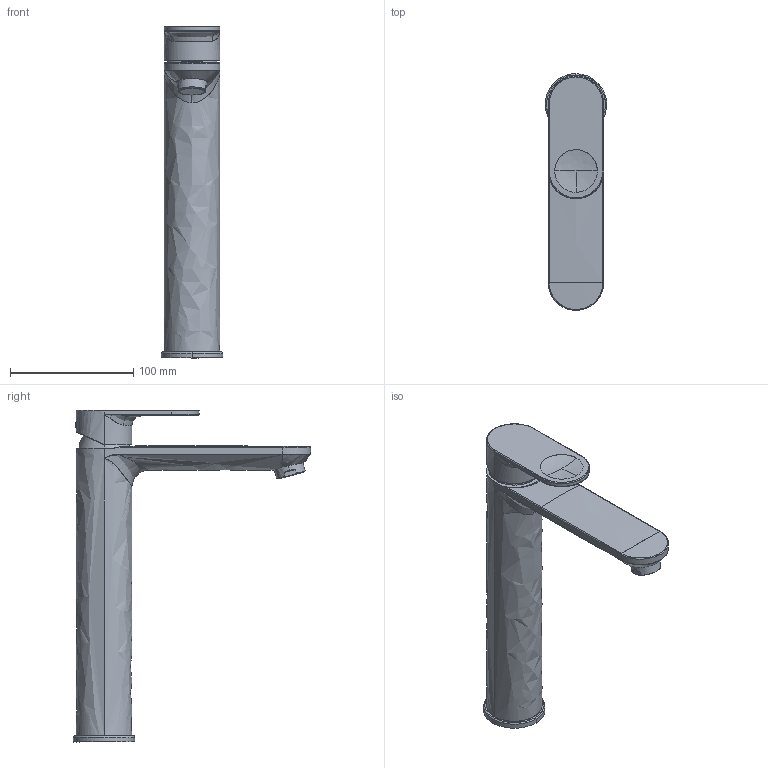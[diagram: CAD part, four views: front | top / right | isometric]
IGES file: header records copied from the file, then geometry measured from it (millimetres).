
Global section: file name: D:\01_Planungsdaten\_news19\Armaturen\B3\B31030002010\3D\B31030002010.igs; native system: Rhinoceros ( Sep 13 2016 ); preprocessor: Trout Lake IGES 012 Sep 13 2016; date: 190225.151515; units: millimetre
Bounding box: 49.8 x 192.38 x 269.45 mm (x, y, z)
Surface area: 68679 mm2 (no closed solid volume)
Topology: 0 solids, 0 shells, 112 faces, 1232 edges, 1229 vertices
Faces by surface type: bspline 112
